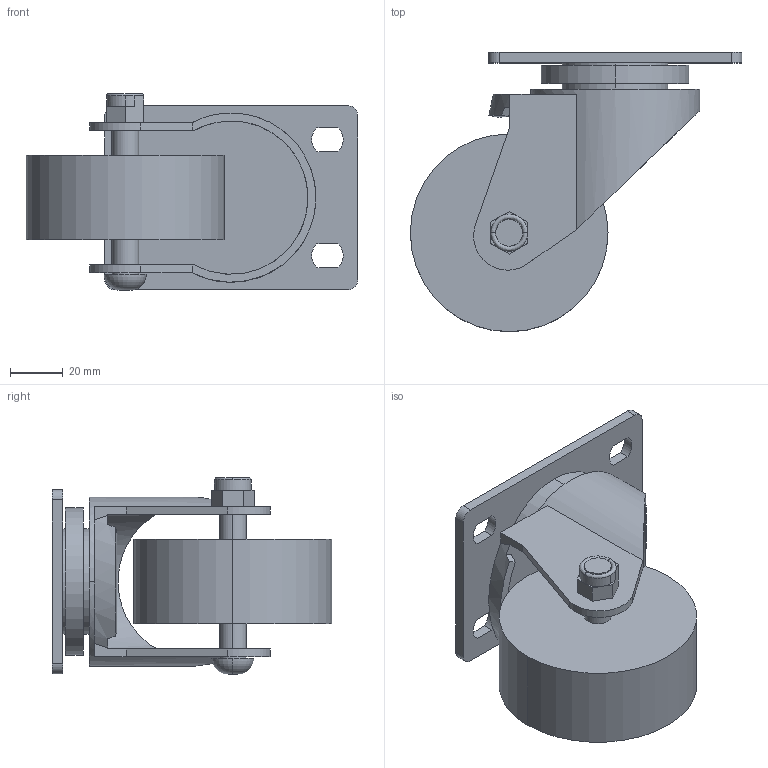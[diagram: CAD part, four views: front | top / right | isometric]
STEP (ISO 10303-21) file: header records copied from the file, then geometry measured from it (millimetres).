
FILE_DESCRIPTION (( 'STEP AP203' ), '1' );
FILE_NAME ('FP-A3-1.STEP', '2015-11-18T07:27:15', ( '' ), ( '' ), 'SwSTEP 2.0', 'SolidWorks 2014', '' );
FILE_SCHEMA (( 'CONFIG_CONTROL_DESIGN' ));
Length unit declared in the file: millimetre
Products named in the file (1): FP-A3-1
Bounding box: 125.7 x 106 x 74.7 mm (x, y, z)
Volume: 233035.6 mm3; surface area: 58221.5 mm2
Topology: 1 solids, 1 shells, 111 faces, 277 edges, 181 vertices
Faces by surface type: plane 54, cylinder 44, bspline 7, torus 6
Entity records: 4055 total; most frequent: CARTESIAN_POINT 1307, DIRECTION 560, ORIENTED_EDGE 552, EDGE_CURVE 276, AXIS2_PLACEMENT_3D 209, VERTEX_POINT 181, LINE 142, VECTOR 142
